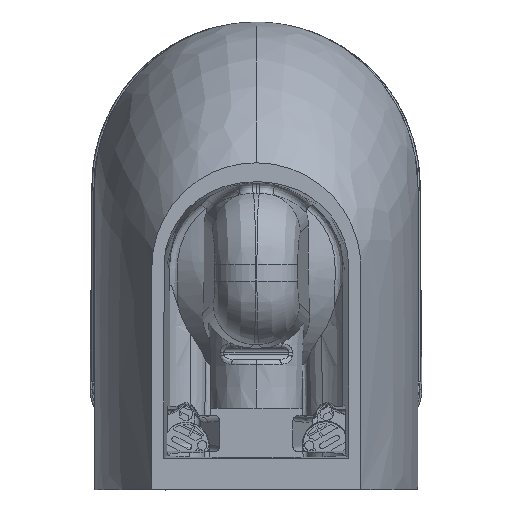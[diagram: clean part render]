
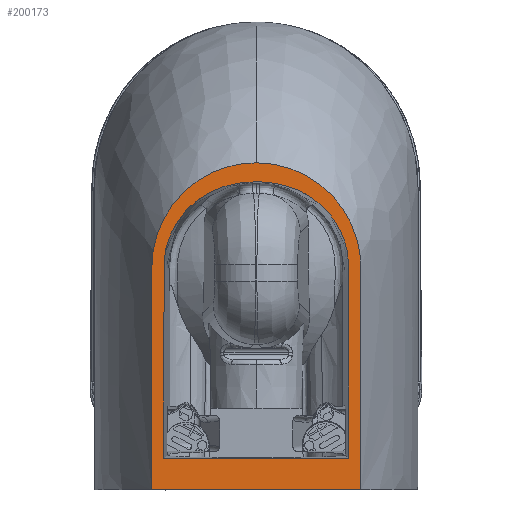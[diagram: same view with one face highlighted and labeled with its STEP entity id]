
A CAD part, front view. The second image highlights one B-rep face of the part: STEP entity #200173.
In plain terms, the highlighted planar face has unit normal (0, -1, 0).
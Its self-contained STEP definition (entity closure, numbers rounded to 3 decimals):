
#2613 = B_SPLINE_CURVE_WITH_KNOTS ( 'NONE', 3,
 ( #176802, #40309, #105238, #142093, #39205, #155579, #172404, #160018, #41404, #90659, #6790 ),
 .UNSPECIFIED., .F., .F.,
 ( 4, 1, 1, 1, 1, 1, 1, 1, 4 ),
 ( 0., 0.022, 0.045, 0.067, 0.09, 0.112, 0.135, 0.157, 0.18 ),
 .UNSPECIFIED. ) ;
#6590 = CARTESIAN_POINT ( 'NONE',  ( 25.587, -299.999, 45.516 ) ) ;
#6790 = CARTESIAN_POINT ( 'NONE',  ( 114.999, -299.999, -46.999 ) ) ;
#8112 = LINE ( 'NONE', #71060, #87634 ) ;
#9886 = VERTEX_POINT ( 'NONE', #97085 ) ;
#12667 = EDGE_LOOP ( 'NONE', ( #173661, #199169, #208712 ) ) ;
#17316 = CARTESIAN_POINT ( 'NONE',  ( -101.914, -299.999, -256.044 ) ) ;
#18196 = DIRECTION ( 'NONE',  ( 1., 0., 0. ) ) ;
#19837 = CARTESIAN_POINT ( 'NONE',  ( -101.914, -299.999, -257.055 ) ) ;
#22830 = EDGE_CURVE ( 'NONE', #130095, #205717, #204004, .T. ) ;
#25560 = CARTESIAN_POINT ( 'NONE',  ( 101.864, -299.999, -61.48 ) ) ;
#26651 = CARTESIAN_POINT ( 'NONE',  ( 101.914, -299.999, -256.044 ) ) ;
#27775 = DIRECTION ( 'NONE',  ( 1., 0., 0. ) ) ;
#37477 = DIRECTION ( 'NONE',  ( 0., 0., 1. ) ) ;
#38493 = CARTESIAN_POINT ( 'NONE',  ( -102.125, -299.999, -28.613 ) ) ;
#39205 = CARTESIAN_POINT ( 'NONE',  ( 64.269, -299.999, 49.257 ) ) ;
#40309 = CARTESIAN_POINT ( 'NONE',  ( 7.527, -299.999, 68.001 ) ) ;
#40798 = B_SPLINE_CURVE_WITH_KNOTS ( 'NONE', 3,
 ( #159824, #26651, #93773, #58013, #212384, #146312, #25560, #107261, #162040, #41214, #59113, #6590, #108349, #175525 ),
 .UNSPECIFIED., .F., .F.,
 ( 4, 3, 1, 1, 1, 1, 1, 1, 1, 4 ),
 ( 0., 0.003, 0.164, 0.197, 0.231, 0.264, 0.289, 0.314, 0.339, 0.364 ),
 .UNSPECIFIED. ) ;
#41214 = CARTESIAN_POINT ( 'NONE',  ( 71.381, -299.999, 23.025 ) ) ;
#41404 = CARTESIAN_POINT ( 'NONE',  ( 113.51, -299.999, -24.373 ) ) ;
#46807 = EDGE_LOOP ( 'NONE', ( #116468, #127038, #62856, #178013, #49729 ) ) ;
#47625 = VERTEX_POINT ( 'NONE', #109194 ) ;
#48082 = EDGE_CURVE ( 'NONE', #78898, #167323, #145091, .T. ) ;
#48178 = VECTOR ( 'NONE', #27775, 1000. ) ;
#49729 = ORIENTED_EDGE ( 'NONE', *, *, #22830, .F. ) ;
#50863 = CARTESIAN_POINT ( 'NONE',  ( -8.51, -299.999, 47.261 ) ) ;
#58013 = CARTESIAN_POINT ( 'NONE',  ( 101.915, -299.999, -254.023 ) ) ;
#58492 = AXIS2_PLACEMENT_3D ( 'NONE', #189357, #207243, #18196 ) ;
#59113 = CARTESIAN_POINT ( 'NONE',  ( 50., -299.999, 37.165 ) ) ;
#62856 = ORIENTED_EDGE ( 'NONE', *, *, #48082, .F. ) ;
#66307 = CARTESIAN_POINT ( 'NONE',  ( -64.269, -299.999, 49.257 ) ) ;
#66397 = DIRECTION ( 'NONE',  ( -1., 0., 0. ) ) ;
#67176 = VERTEX_POINT ( 'NONE', #19837 ) ;
#71060 = CARTESIAN_POINT ( 'NONE',  ( -114.999, -299.999, -291.997 ) ) ;
#78898 = VERTEX_POINT ( 'NONE', #130599 ) ;
#80881 = CARTESIAN_POINT ( 'NONE',  ( -22.575, -299.999, 66.519 ) ) ;
#84168 = CARTESIAN_POINT ( 'NONE',  ( -81.801, -299.999, 34.882 ) ) ;
#87634 = VECTOR ( 'NONE', #37477, 1000. ) ;
#87741 = CARTESIAN_POINT ( 'NONE',  ( 0., -299.999, 47.261 ) ) ;
#90659 = CARTESIAN_POINT ( 'NONE',  ( 114.999, -299.999, -39.454 ) ) ;
#93773 = CARTESIAN_POINT ( 'NONE',  ( 101.915, -299.999, -255.034 ) ) ;
#97085 = CARTESIAN_POINT ( 'NONE',  ( 101.914, -299.999, -257.055 ) ) ;
#97682 = CARTESIAN_POINT ( 'NONE',  ( -114.999, -299.999, -46.999 ) ) ;
#101066 = CARTESIAN_POINT ( 'NONE',  ( 0., -299.999, -291.997 ) ) ;
#102300 = CARTESIAN_POINT ( 'NONE',  ( -101.864, -299.999, -61.48 ) ) ;
#104530 = CARTESIAN_POINT ( 'NONE',  ( -50., -299.999, 37.165 ) ) ;
#105238 = CARTESIAN_POINT ( 'NONE',  ( 22.575, -299.999, 66.519 ) ) ;
#107261 = CARTESIAN_POINT ( 'NONE',  ( 102.125, -299.999, -28.613 ) ) ;
#108349 = CARTESIAN_POINT ( 'NONE',  ( 8.51, -299.999, 47.261 ) ) ;
#109194 = CARTESIAN_POINT ( 'NONE',  ( 0., -299.999, 47.261 ) ) ;
#109435 = EDGE_CURVE ( 'NONE', #205717, #78898, #8112, .T. ) ;
#110436 = LINE ( 'NONE', #178705, #176205 ) ;
#116468 = ORIENTED_EDGE ( 'NONE', *, *, #198071, .F. ) ;
#116692 = CARTESIAN_POINT ( 'NONE',  ( 114.999, -299.999, -291.997 ) ) ;
#119078 = CARTESIAN_POINT ( 'NONE',  ( -90.17, -299.999, 1.049 ) ) ;
#121039 = FACE_OUTER_BOUND ( 'NONE', #46807, .T. ) ;
#121274 = CARTESIAN_POINT ( 'NONE',  ( -101.915, -299.999, -254.023 ) ) ;
#127038 = ORIENTED_EDGE ( 'NONE', *, *, #215994, .F. ) ;
#127792 = VECTOR ( 'NONE', #66397, 1000. ) ;
#127997 = EDGE_CURVE ( 'NONE', #9886, #47625, #40798, .T. ) ;
#130095 = VERTEX_POINT ( 'NONE', #116692 ) ;
#130599 = CARTESIAN_POINT ( 'NONE',  ( -114.999, -299.999, -46.999 ) ) ;
#133203 = CARTESIAN_POINT ( 'NONE',  ( 0., -299.999, -257.055 ) ) ;
#133403 = CARTESIAN_POINT ( 'NONE',  ( -44.273, -299.999, 59.939 ) ) ;
#134494 = CARTESIAN_POINT ( 'NONE',  ( 0., -299.999, 68.001 ) ) ;
#135641 = CARTESIAN_POINT ( 'NONE',  ( 114.999, -299.999, -46.999 ) ) ;
#138055 = CARTESIAN_POINT ( 'NONE',  ( -101.93, -299.999, -200.828 ) ) ;
#140300 = CARTESIAN_POINT ( 'NONE',  ( -25.587, -299.999, 45.516 ) ) ;
#142093 = CARTESIAN_POINT ( 'NONE',  ( 44.273, -299.999, 59.939 ) ) ;
#145091 = B_SPLINE_CURVE_WITH_KNOTS ( 'NONE', 3,
 ( #97682, #165940, #218483, #151316, #186020, #84168, #66307, #133403, #80881, #184914, #134494 ),
 .UNSPECIFIED., .F., .F.,
 ( 4, 1, 1, 1, 1, 1, 1, 1, 4 ),
 ( 0., 0.022, 0.045, 0.067, 0.09, 0.112, 0.135, 0.157, 0.18 ),
 .UNSPECIFIED. ) ;
#146312 = CARTESIAN_POINT ( 'NONE',  ( 101.982, -299.999, -136.665 ) ) ;
#148175 = CARTESIAN_POINT ( 'NONE',  ( 0., -299.999, 68.001 ) ) ;
#150012 = LINE ( 'NONE', #133203, #48178 ) ;
#151316 = CARTESIAN_POINT ( 'NONE',  ( -106.906, -299.999, -2.646 ) ) ;
#153757 = CARTESIAN_POINT ( 'NONE',  ( -101.914, -299.999, -257.055 ) ) ;
#155412 = VERTEX_POINT ( 'NONE', #135641 ) ;
#155579 = CARTESIAN_POINT ( 'NONE',  ( 81.801, -299.999, 34.882 ) ) ;
#156717 = EDGE_CURVE ( 'NONE', #67176, #9886, #150012, .T. ) ;
#159824 = CARTESIAN_POINT ( 'NONE',  ( 101.914, -299.999, -257.055 ) ) ;
#160018 = CARTESIAN_POINT ( 'NONE',  ( 106.906, -299.999, -2.646 ) ) ;
#162040 = CARTESIAN_POINT ( 'NONE',  ( 90.17, -299.999, 1.049 ) ) ;
#165077 = CARTESIAN_POINT ( 'NONE',  ( -114.999, -299.999, -291.997 ) ) ;
#165940 = CARTESIAN_POINT ( 'NONE',  ( -114.999, -299.999, -39.454 ) ) ;
#167323 = VERTEX_POINT ( 'NONE', #148175 ) ;
#172404 = CARTESIAN_POINT ( 'NONE',  ( 96.198, -299.999, 17.359 ) ) ;
#172574 = FACE_BOUND ( 'NONE', #12667, .T. ) ;
#173661 = ORIENTED_EDGE ( 'NONE', *, *, #127997, .F. ) ;
#173672 = PLANE ( 'NONE',  #58492 ) ;
#173898 = CARTESIAN_POINT ( 'NONE',  ( -101.915, -299.999, -255.034 ) ) ;
#175525 = CARTESIAN_POINT ( 'NONE',  ( 0., -299.999, 47.261 ) ) ;
#176205 = VECTOR ( 'NONE', #193288, 1000. ) ;
#176802 = CARTESIAN_POINT ( 'NONE',  ( 0., -299.999, 68.001 ) ) ;
#178013 = ORIENTED_EDGE ( 'NONE', *, *, #109435, .F. ) ;
#178705 = CARTESIAN_POINT ( 'NONE',  ( 114.999, -299.999, -110.918 ) ) ;
#184914 = CARTESIAN_POINT ( 'NONE',  ( -7.527, -299.999, 68.001 ) ) ;
#186020 = CARTESIAN_POINT ( 'NONE',  ( -96.198, -299.999, 17.359 ) ) ;
#189131 = EDGE_CURVE ( 'NONE', #47625, #67176, #201591, .T. ) ;
#189357 = CARTESIAN_POINT ( 'NONE',  ( -114.999, -299.999, -291.997 ) ) ;
#193288 = DIRECTION ( 'NONE',  ( 0., 0., -1. ) ) ;
#198071 = EDGE_CURVE ( 'NONE', #155412, #130095, #110436, .T. ) ;
#199169 = ORIENTED_EDGE ( 'NONE', *, *, #156717, .F. ) ;
#200173 = ADVANCED_FACE ( 'NONE', ( #172574, #121039 ), #173672, .F. ) ;
#201591 = B_SPLINE_CURVE_WITH_KNOTS ( 'NONE', 3,
 ( #87741, #50863, #140300, #104530, #204145, #119078, #38493, #102300, #205242, #138055, #121274, #173898, #17316, #153757 ),
 .UNSPECIFIED., .F., .F.,
 ( 4, 1, 1, 1, 1, 1, 1, 1, 3, 4 ),
 ( 0., 0.025, 0.05, 0.075, 0.099, 0.133, 0.166, 0.199, 0.359, 0.363 ),
 .UNSPECIFIED. ) ;
#204004 = LINE ( 'NONE', #101066, #127792 ) ;
#204145 = CARTESIAN_POINT ( 'NONE',  ( -71.381, -299.999, 23.025 ) ) ;
#205242 = CARTESIAN_POINT ( 'NONE',  ( -101.982, -299.999, -136.665 ) ) ;
#205717 = VERTEX_POINT ( 'NONE', #165077 ) ;
#207243 = DIRECTION ( 'NONE',  ( 0., 1., 0. ) ) ;
#208712 = ORIENTED_EDGE ( 'NONE', *, *, #189131, .F. ) ;
#212384 = CARTESIAN_POINT ( 'NONE',  ( 101.93, -299.999, -200.828 ) ) ;
#215994 = EDGE_CURVE ( 'NONE', #167323, #155412, #2613, .T. ) ;
#218483 = CARTESIAN_POINT ( 'NONE',  ( -113.51, -299.999, -24.373 ) ) ;
